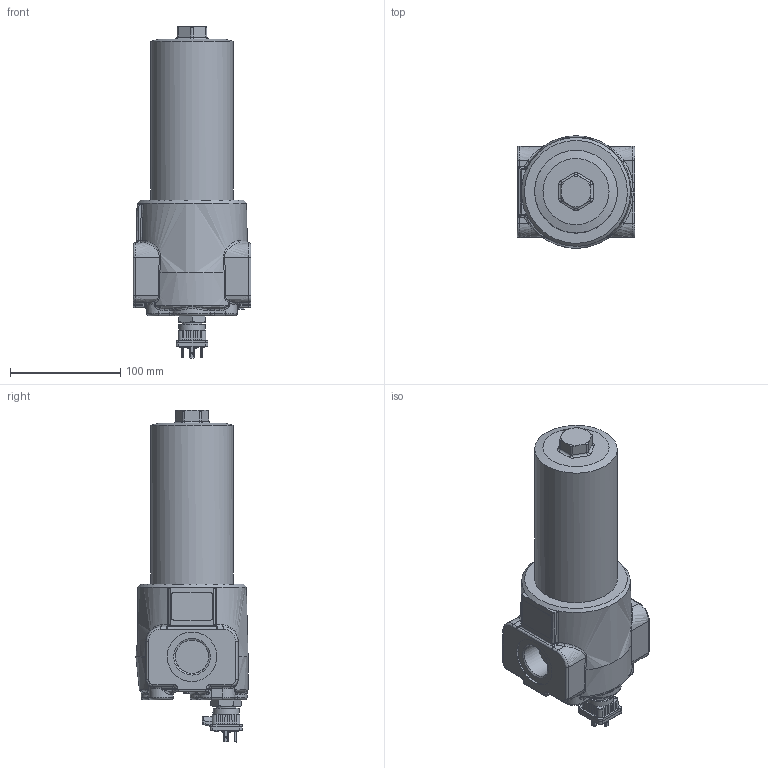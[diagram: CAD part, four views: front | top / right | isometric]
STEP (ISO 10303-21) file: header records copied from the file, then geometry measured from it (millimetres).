
FILE_DESCRIPTION((''),'2;1');
FILE_NAME('U:\Users\i.maeder\34150400_HD152-188ED8_exp.stp', '2016-07-08T14:27:03',('User'),('SDRC'),'I-DEAS Master Series 9','UNIX', 'Yes');
FILE_SCHEMA(('AUTOMOTIVE_DESIGN { 1 0 10303 214 1 1 1 1 }'));
Length unit declared in the file: millimetre
Products named in the file (1): 34150400
Bounding box: 107 x 101.84 x 301.4 mm (x, y, z)
Volume: 1531601.4 mm3; surface area: 98792.8 mm2
Topology: 1 solids, 1 shells, 1050 faces, 2841 edges, 1822 vertices
Faces by surface type: bspline 1050
Entity records: 44158 total; most frequent: CARTESIAN_POINT 28045, ORIENTED_EDGE 5636, EDGE_CURVE 2818, VERTEX_POINT 1808, B_SPLINE_CURVE_WITH_KNOTS 1575, EDGE_LOOP 1094, FACE_OUTER_BOUND 1050, ADVANCED_FACE 1050
